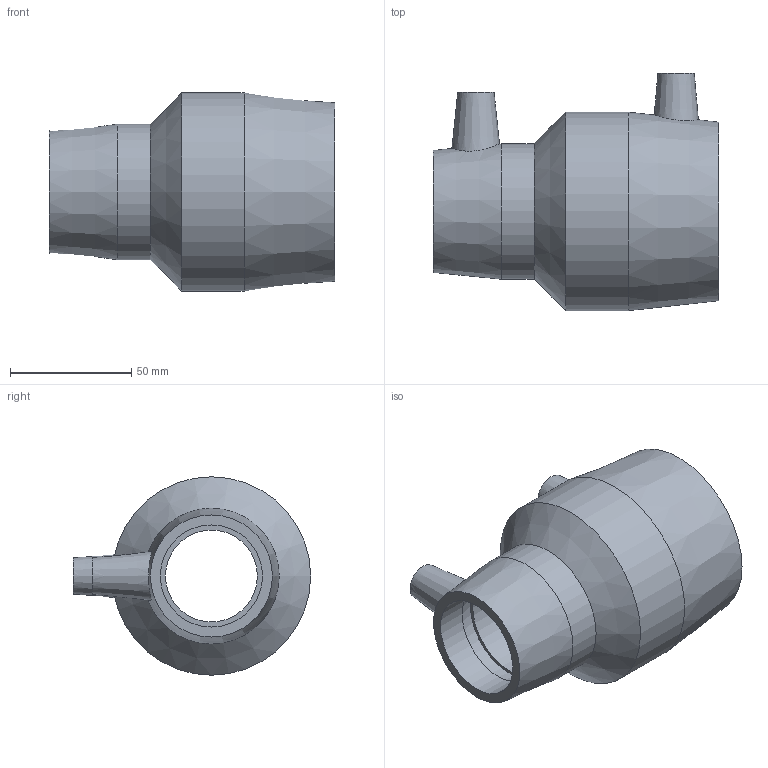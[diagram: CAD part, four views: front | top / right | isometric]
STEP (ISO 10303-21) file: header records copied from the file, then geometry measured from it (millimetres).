
FILE_DESCRIPTION(/* description */ ('PLASSON ASTM REDUCING COUPLER 2''''IPS-1 1/4''''IPS'),/* implementation_level */ '2;1');
FILE_NAME(/* name */ 'C:\Dropbox\KIMPROJECTS-Inventor 2019\99-16-3568-Processing Inch\ASTM ElectroFusion 2021\5911\5911BB03020013.ipt.stp',/* time_stamp */ '2021-08-30T09:50:12+03:00',/* author */ ('KIM'),/* organization */ (''),/* preprocessor_version */ 'ST-DEVELOPER v17.2',/* originating_system */ 'Autodesk Inventor 2019',/* authorisation */ '');
FILE_SCHEMA (('AUTOMOTIVE_DESIGN { 1 0 10303 214 3 1 1 }'));
Length unit declared in the file: inch
Products named in the file (1): 5911BB03020013
Bounding box: 117.86 x 97.79 x 81.79 mm (x, y, z)
Volume: 205079.6 mm3; surface area: 53278.4 mm2
Topology: 1 solids, 1 shells, 31 faces, 72 edges, 53 vertices
Faces by surface type: plane 12, cylinder 11, cone 8
Full cylindrical faces by diameter (mm): 4 x2, 10 x2, 37.89 x1, 42.1 x2, 55.88 x1, 60.1 x2, 81.788 x1
Entity records: 1042 total; most frequent: CARTESIAN_POINT 225, DIRECTION 181, ORIENTED_EDGE 144, AXIS2_PLACEMENT_3D 81, EDGE_CURVE 72, VERTEX_POINT 53, CIRCLE 49, EDGE_LOOP 43
